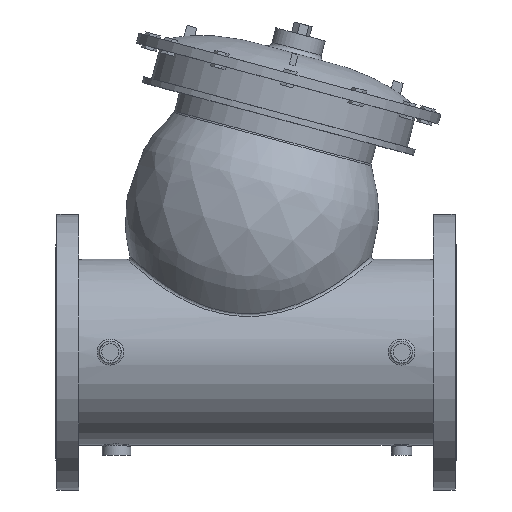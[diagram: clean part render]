
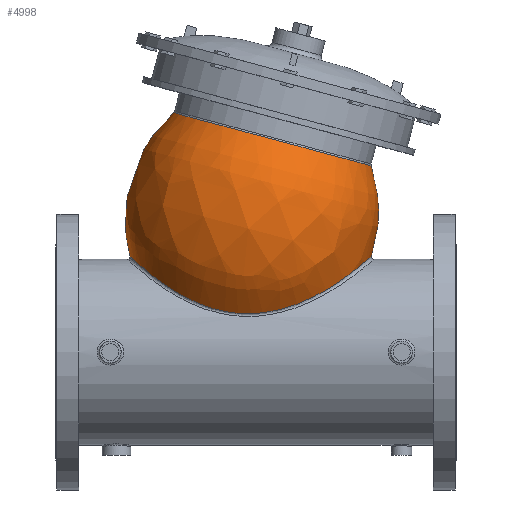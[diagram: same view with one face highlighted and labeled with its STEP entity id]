
A CAD part, top view. The second image highlights one B-rep face of the part: STEP entity #4998.
In plain terms, the highlighted free-form (B-spline) face has degree [2, 2] with [3, 9] control points.
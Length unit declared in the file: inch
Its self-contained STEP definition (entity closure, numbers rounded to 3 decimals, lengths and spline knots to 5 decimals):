
#347=B_SPLINE_CURVE_WITH_KNOTS('',3,(#7066,#7067,#7068,#7069,#7070,#7071,
#7072,#7073,#7074,#7075,#7076,#7077,#7078,#7079,#7080,#7081,#7082,#7083,
#7084,#7085,#7086,#7087,#7088,#7089,#7090,#7091,#7092),.UNSPECIFIED.,.F.,
 .F.,(4,1,1,1,1,1,1,1,1,1,1,1,1,1,1,1,1,1,1,1,1,1,1,1,4),(0.,1.54808,
3.09615,6.19231,9.28846,12.38462,16.51282,
20.64103,22.70513,24.76924,28.89744,33.02565,
35.08975,37.15385,39.21796,41.28206,43.34616,
45.41027,46.78633,49.53847,50.91454,53.66668,
57.79488,61.92309,62.12563),.UNSPECIFIED.);
#348=B_SPLINE_CURVE_WITH_KNOTS('',3,(#7093,#7094,#7095,#7096,#7097,#7098,
#7099,#7100,#7101,#7102,#7103,#7104),.UNSPECIFIED.,.F.,.F.,(4,1,1,1,1,1,
1,1,1,4),(62.12563,63.98719,66.0513,70.1795,
74.30771,77.40386,80.50002,83.59617,85.14425,
86.69233),.UNSPECIFIED.);
#390=(
BOUNDED_CURVE()
B_SPLINE_CURVE(2,(#7062,#7063,#7064),.UNSPECIFIED.,.F.,.F.)
B_SPLINE_CURVE_WITH_KNOTS((3,3),(-0.58737,0.77516),
 .UNSPECIFIED.)
CURVE()
GEOMETRIC_REPRESENTATION_ITEM()
RATIONAL_B_SPLINE_CURVE((1.,0.776,0.998))
REPRESENTATION_ITEM('')
);
#393=(
BOUNDED_SURFACE()
B_SPLINE_SURFACE(2,2,((#7034,#7035,#7036,#7037,#7038,#7039,#7040,#7041,
#7042),(#7043,#7044,#7045,#7046,#7047,#7048,#7049,#7050,#7051),(#7052,#7053,
#7054,#7055,#7056,#7057,#7058,#7059,#7060)),.UNSPECIFIED.,.F.,.T.,.F.)
B_SPLINE_SURFACE_WITH_KNOTS((3,3),(3,2,2,2,3),(-0.78043,0.58737),
(-3.14159,-1.5708,0.,1.5708,3.14159),
 .UNSPECIFIED.)
GEOMETRIC_REPRESENTATION_ITEM()
RATIONAL_B_SPLINE_SURFACE(((1.,0.707,1.,0.707,1.,
0.707,1.,0.707,1.),(0.775,0.548,
0.775,0.548,0.775,0.548,
0.775,0.548,0.775),(1.,0.707,
1.,0.707,1.,0.707,1.,0.707,1.)))
REPRESENTATION_ITEM('')
SURFACE()
);
#414=FACE_OUTER_BOUND('',#678,.T.);
#678=EDGE_LOOP('',(#3385,#3386,#3387,#3388,#3389,#3390));
#2090=CIRCLE('',#5314,5.02514);
#2095=CIRCLE('',#5319,5.02514);
#2199=VERTEX_POINT('',#7023);
#2200=VERTEX_POINT('',#7024);
#2204=VERTEX_POINT('',#7061);
#2205=VERTEX_POINT('',#7065);
#2680=EDGE_CURVE('',#2199,#2200,#2090,.T.);
#2685=EDGE_CURVE('',#2200,#2199,#2095,.T.);
#2686=EDGE_CURVE('',#2200,#2204,#390,.T.);
#2687=EDGE_CURVE('',#2205,#2204,#347,.T.);
#2688=EDGE_CURVE('',#2204,#2205,#348,.T.);
#3385=ORIENTED_EDGE('',*,*,#2680,.F.);
#3386=ORIENTED_EDGE('',*,*,#2685,.F.);
#3387=ORIENTED_EDGE('',*,*,#2686,.T.);
#3388=ORIENTED_EDGE('',*,*,#2687,.F.);
#3389=ORIENTED_EDGE('',*,*,#2688,.F.);
#3390=ORIENTED_EDGE('',*,*,#2686,.F.);
#4998=ADVANCED_FACE('',(#414),#393,.F.);
#5314=AXIS2_PLACEMENT_3D('',#7025,#5758,#5759);
#5319=AXIS2_PLACEMENT_3D('',#7033,#5768,#5769);
#5758=DIRECTION('center_axis',(0.259,0.966,0.));
#5759=DIRECTION('ref_axis',(0.966,-0.259,0.));
#5768=DIRECTION('center_axis',(0.259,0.966,0.));
#5769=DIRECTION('ref_axis',(0.966,-0.259,0.));
#7023=CARTESIAN_POINT('',(-4.05009,11.76461,0.));
#7024=CARTESIAN_POINT('',(0.80382,10.46401,-5.02514));
#7025=CARTESIAN_POINT('Origin',(0.80382,10.46401,0.));
#7033=CARTESIAN_POINT('Origin',(0.80382,10.46401,0.));
#7034=CARTESIAN_POINT('Ctrl Pts',(-1.47489,1.95972,-4.1726));
#7035=CARTESIAN_POINT('Ctrl Pts',(-5.50532,3.03967,-4.1726));
#7036=CARTESIAN_POINT('Ctrl Pts',(-5.50532,3.03967,0.));
#7037=CARTESIAN_POINT('Ctrl Pts',(-5.50532,3.03967,4.1726));
#7038=CARTESIAN_POINT('Ctrl Pts',(-1.47489,1.95972,4.1726));
#7039=CARTESIAN_POINT('Ctrl Pts',(2.55553,0.87977,4.1726));
#7040=CARTESIAN_POINT('Ctrl Pts',(2.55553,0.87977,0.));
#7041=CARTESIAN_POINT('Ctrl Pts',(2.55553,0.87977,-4.1726));
#7042=CARTESIAN_POINT('Ctrl Pts',(-1.47489,1.95972,-4.1726));
#7043=CARTESIAN_POINT('Ctrl Pts',(-0.42547,5.87624,-8.18718));
#7044=CARTESIAN_POINT('Ctrl Pts',(-8.33368,7.99524,-8.18718));
#7045=CARTESIAN_POINT('Ctrl Pts',(-8.33368,7.99524,0.));
#7046=CARTESIAN_POINT('Ctrl Pts',(-8.33368,7.99524,8.18718));
#7047=CARTESIAN_POINT('Ctrl Pts',(-0.42547,5.87624,8.18718));
#7048=CARTESIAN_POINT('Ctrl Pts',(7.48275,3.75724,8.18718));
#7049=CARTESIAN_POINT('Ctrl Pts',(7.48275,3.75724,0.));
#7050=CARTESIAN_POINT('Ctrl Pts',(7.48275,3.75724,-8.18718));
#7051=CARTESIAN_POINT('Ctrl Pts',(-0.42547,5.87624,-8.18718));
#7052=CARTESIAN_POINT('Ctrl Pts',(0.80382,10.46401,-5.02514));
#7053=CARTESIAN_POINT('Ctrl Pts',(-4.05009,11.76461,-5.02514));
#7054=CARTESIAN_POINT('Ctrl Pts',(-4.05009,11.76461,0.));
#7055=CARTESIAN_POINT('Ctrl Pts',(-4.05009,11.76461,5.02514));
#7056=CARTESIAN_POINT('Ctrl Pts',(0.80382,10.46401,5.02514));
#7057=CARTESIAN_POINT('Ctrl Pts',(5.65773,9.16341,5.02514));
#7058=CARTESIAN_POINT('Ctrl Pts',(5.65773,9.16341,0.));
#7059=CARTESIAN_POINT('Ctrl Pts',(5.65773,9.16341,-5.02514));
#7060=CARTESIAN_POINT('Ctrl Pts',(0.80382,10.46401,-5.02514));
#7061=CARTESIAN_POINT('',(-1.46868,1.98309,-4.19648));
#7062=CARTESIAN_POINT('Ctrl Pts',(0.80382,10.46401,-5.02514));
#7063=CARTESIAN_POINT('Ctrl Pts',(-0.41937,5.899,-8.1715));
#7064=CARTESIAN_POINT('Ctrl Pts',(-1.46861,1.98317,-4.19652));
#7065=CARTESIAN_POINT('',(5.6715,4.72675,0.));
#7066=CARTESIAN_POINT('Ctrl Pts',(5.6715,4.72675,0.));
#7067=CARTESIAN_POINT('Ctrl Pts',(5.6715,4.72675,0.2102));
#7068=CARTESIAN_POINT('Ctrl Pts',(5.63918,4.6975,0.63032));
#7069=CARTESIAN_POINT('Ctrl Pts',(5.4501,4.52898,1.43725));
#7070=CARTESIAN_POINT('Ctrl Pts',(5.00135,4.14259,2.32502));
#7071=CARTESIAN_POINT('Ctrl Pts',(4.21509,3.53829,3.12427));
#7072=CARTESIAN_POINT('Ctrl Pts',(3.14485,2.84962,3.73433));
#7073=CARTESIAN_POINT('Ctrl Pts',(1.77943,2.20523,4.10931));
#7074=CARTESIAN_POINT('Ctrl Pts',(0.40476,1.89261,4.2365));
#7075=CARTESIAN_POINT('Ctrl Pts',(-0.71914,1.87494,4.24364));
#7076=CARTESIAN_POINT('Ctrl Pts',(-1.83248,2.01422,4.18379));
#7077=CARTESIAN_POINT('Ctrl Pts',(-3.15393,2.47141,3.97149));
#7078=CARTESIAN_POINT('Ctrl Pts',(-4.29306,3.15715,3.48685));
#7079=CARTESIAN_POINT('Ctrl Pts',(-5.05475,3.72151,2.88044));
#7080=CARTESIAN_POINT('Ctrl Pts',(-5.5344,4.11737,2.30963));
#7081=CARTESIAN_POINT('Ctrl Pts',(-5.9037,4.4465,1.62339));
#7082=CARTESIAN_POINT('Ctrl Pts',(-6.13892,4.66732,0.84045));
#7083=CARTESIAN_POINT('Ctrl Pts',(-6.22021,4.74562,-0.00019));
#7084=CARTESIAN_POINT('Ctrl Pts',(-6.14793,4.67597,-0.7468));
#7085=CARTESIAN_POINT('Ctrl Pts',(-5.9384,4.47905,-1.54021));
#7086=CARTESIAN_POINT('Ctrl Pts',(-5.62679,4.19684,-2.16792));
#7087=CARTESIAN_POINT('Ctrl Pts',(-5.11402,3.76902,-2.82361));
#7088=CARTESIAN_POINT('Ctrl Pts',(-4.36903,3.20281,-3.45471));
#7089=CARTESIAN_POINT('Ctrl Pts',(-3.15376,2.4715,-3.97148));
#7090=CARTESIAN_POINT('Ctrl Pts',(-2.07079,2.0967,-4.14553));
#7091=CARTESIAN_POINT('Ctrl Pts',(-1.49569,1.98792,-4.19425));
#7092=CARTESIAN_POINT('Ctrl Pts',(-1.46875,1.98301,-4.19644));
#7093=CARTESIAN_POINT('Ctrl Pts',(-1.46875,1.98301,-4.19644));
#7094=CARTESIAN_POINT('Ctrl Pts',(-1.22116,1.93793,-4.21658));
#7095=CARTESIAN_POINT('Ctrl Pts',(-0.69155,1.87536,-4.24345));
#7096=CARTESIAN_POINT('Ctrl Pts',(0.40477,1.89263,-4.23653));
#7097=CARTESIAN_POINT('Ctrl Pts',(1.77942,2.20518,-4.10927));
#7098=CARTESIAN_POINT('Ctrl Pts',(3.14483,2.84964,-3.73437));
#7099=CARTESIAN_POINT('Ctrl Pts',(4.21503,3.53823,-3.12428));
#7100=CARTESIAN_POINT('Ctrl Pts',(5.00133,4.14258,-2.32509));
#7101=CARTESIAN_POINT('Ctrl Pts',(5.45009,4.52897,-1.43725));
#7102=CARTESIAN_POINT('Ctrl Pts',(5.63918,4.6975,-0.63032));
#7103=CARTESIAN_POINT('Ctrl Pts',(5.6715,4.72675,-0.2102));
#7104=CARTESIAN_POINT('Ctrl Pts',(5.6715,4.72675,0.));
